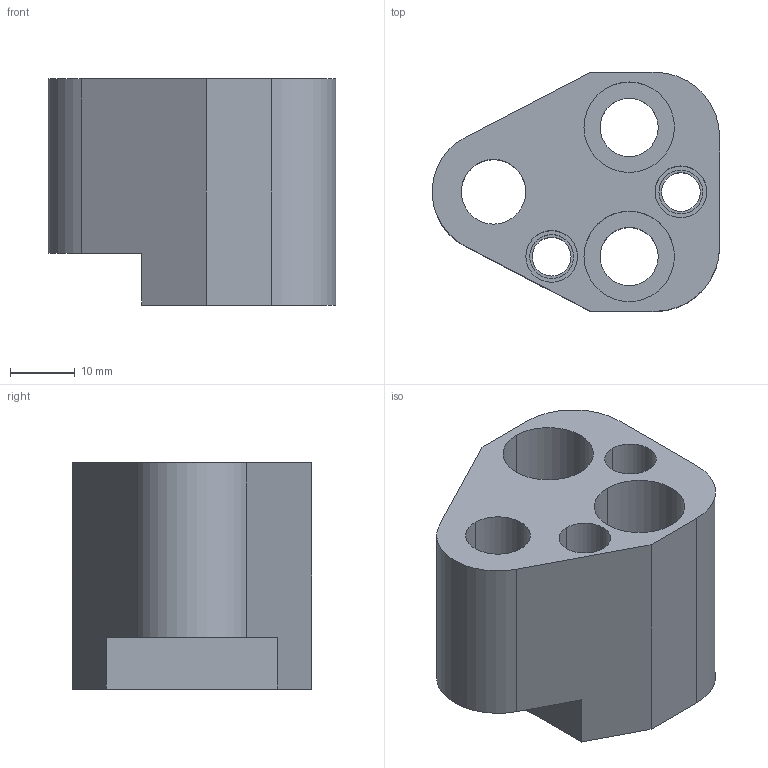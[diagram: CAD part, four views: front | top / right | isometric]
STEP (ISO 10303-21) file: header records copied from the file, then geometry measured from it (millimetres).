
FILE_DESCRIPTION(/* description */ (''),/* implementation_level */ '2;1');
FILE_NAME(/* name */ '3d_hap-fn10_04012_r00.stp',/* time_stamp */ '2011-01-10T14:14:58+09:00',/* author */ ('MISUMI'),/* organization */ (''),/* preprocessor_version */ 'ST-DEVELOPER v11',/* originating_system */ 'UGS - NX 5.0',/* authorisation */ '');
FILE_SCHEMA (('CONFIG_CONTROL_DESIGN'));
Length unit declared in the file: millimetre
Products named in the file (1): 3d_hap-fn10_04012_r00
Bounding box: 44.47 x 37 x 35 mm (x, y, z)
Volume: 30440 mm3; surface area: 11438.1 mm2
Topology: 1 solids, 1 shells, 42 faces, 104 edges, 69 vertices
Faces by surface type: cylinder 25, plane 15, cone 2
Entity records: 1382 total; most frequent: DIRECTION 242, CARTESIAN_POINT 221, ORIENTED_EDGE 208, EDGE_CURVE 104, AXIS2_PLACEMENT_3D 96, VERTEX_POINT 69, EDGE_LOOP 57, CIRCLE 53
